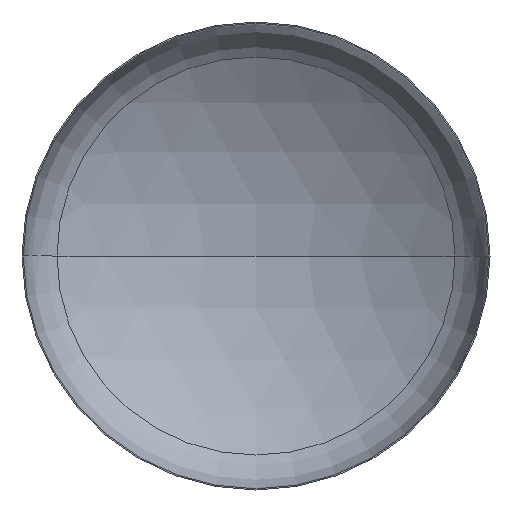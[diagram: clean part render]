
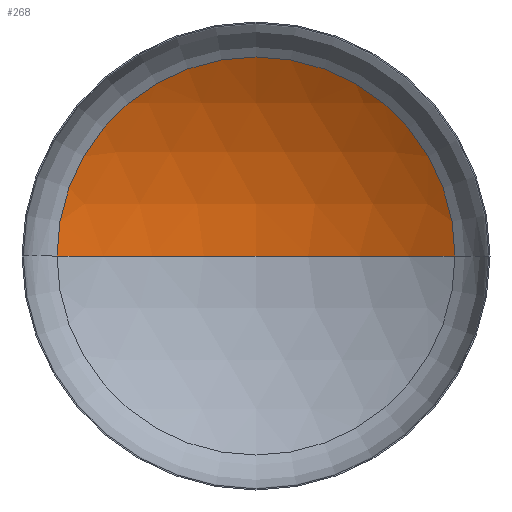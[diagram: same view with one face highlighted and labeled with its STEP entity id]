
A CAD part, front view. The second image highlights one B-rep face of the part: STEP entity #268.
In plain terms, the highlighted spherical face has radius 6000 mm.
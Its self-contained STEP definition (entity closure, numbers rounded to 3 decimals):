
#5 = VERTEX_POINT ( 'NONE', #136 ) ;
#29 = DIRECTION ( 'NONE',  ( 0., -1., 0. ) ) ;
#33 = ORIENTED_EDGE ( 'NONE', *, *, #163, .T. ) ;
#36 = AXIS2_PLACEMENT_3D ( 'NONE', #191, #215, #377 ) ;
#46 = CIRCLE ( 'NONE', #73, 6000. ) ;
#47 = ORIENTED_EDGE ( 'NONE', *, *, #166, .T. ) ;
#69 = VERTEX_POINT ( 'NONE', #337 ) ;
#72 = AXIS2_PLACEMENT_3D ( 'NONE', #233, #397, #253 ) ;
#73 = AXIS2_PLACEMENT_3D ( 'NONE', #149, #315, #186 ) ;
#75 = AXIS2_PLACEMENT_3D ( 'NONE', #251, #29, #273 ) ;
#117 = ORIENTED_EDGE ( 'NONE', *, *, #170, .F. ) ;
#134 = EDGE_LOOP ( 'NONE', ( #117, #47, #33 ) ) ;
#136 = CARTESIAN_POINT ( 'NONE',  ( 0., 1956.556, 0. ) ) ;
#149 = CARTESIAN_POINT ( 'NONE',  ( 0., -4043.444, 0. ) ) ;
#154 = VERTEX_POINT ( 'NONE', #183 ) ;
#163 = EDGE_CURVE ( 'NONE', #69, #154, #185, .T. ) ;
#166 = EDGE_CURVE ( 'NONE', #5, #69, #46, .T. ) ;
#170 = EDGE_CURVE ( 'NONE', #5, #154, #244, .T. ) ;
#183 = CARTESIAN_POINT ( 'NONE',  ( -3190.093, 1038.22, 0. ) ) ;
#185 = CIRCLE ( 'NONE', #75, 3190.093 ) ;
#186 = DIRECTION ( 'NONE',  ( -1., 0., 0. ) ) ;
#191 = CARTESIAN_POINT ( 'NONE',  ( 0., -4043.444, 0. ) ) ;
#215 = DIRECTION ( 'NONE',  ( 0., 0., -1. ) ) ;
#216 = FACE_OUTER_BOUND ( 'NONE', #134, .T. ) ;
#233 = CARTESIAN_POINT ( 'NONE',  ( 0., -4043.444, 0. ) ) ;
#244 = CIRCLE ( 'NONE', #72, 6000. ) ;
#251 = CARTESIAN_POINT ( 'NONE',  ( 0., 1038.22, 0. ) ) ;
#253 = DIRECTION ( 'NONE',  ( 1., 0., 0. ) ) ;
#268 = ADVANCED_FACE ( 'NONE', ( #216 ), #336, .F. ) ;
#273 = DIRECTION ( 'NONE',  ( 1., 0., 0. ) ) ;
#315 = DIRECTION ( 'NONE',  ( 0., 0., -1. ) ) ;
#336 = SPHERICAL_SURFACE ( 'NONE', #36, 6000. ) ;
#337 = CARTESIAN_POINT ( 'NONE',  ( 3190.093, 1038.22, 0. ) ) ;
#377 = DIRECTION ( 'NONE',  ( -1., 0., 0. ) ) ;
#397 = DIRECTION ( 'NONE',  ( 0., 0., 1. ) ) ;
